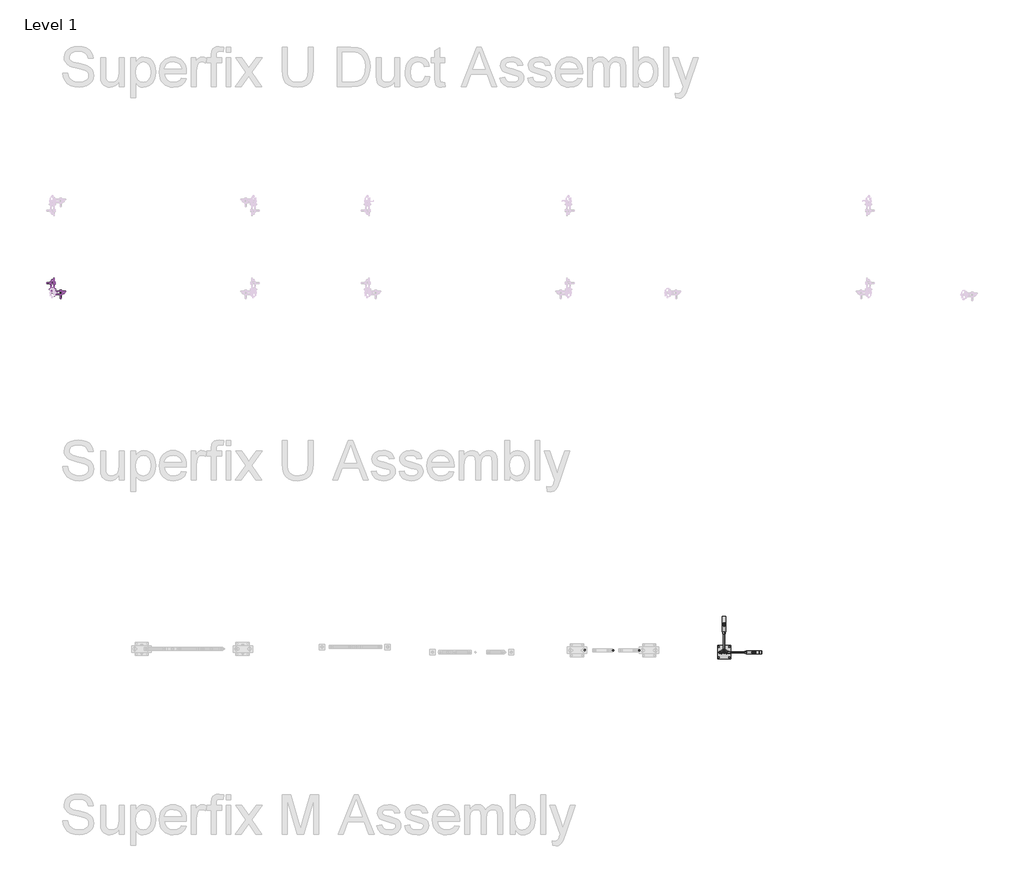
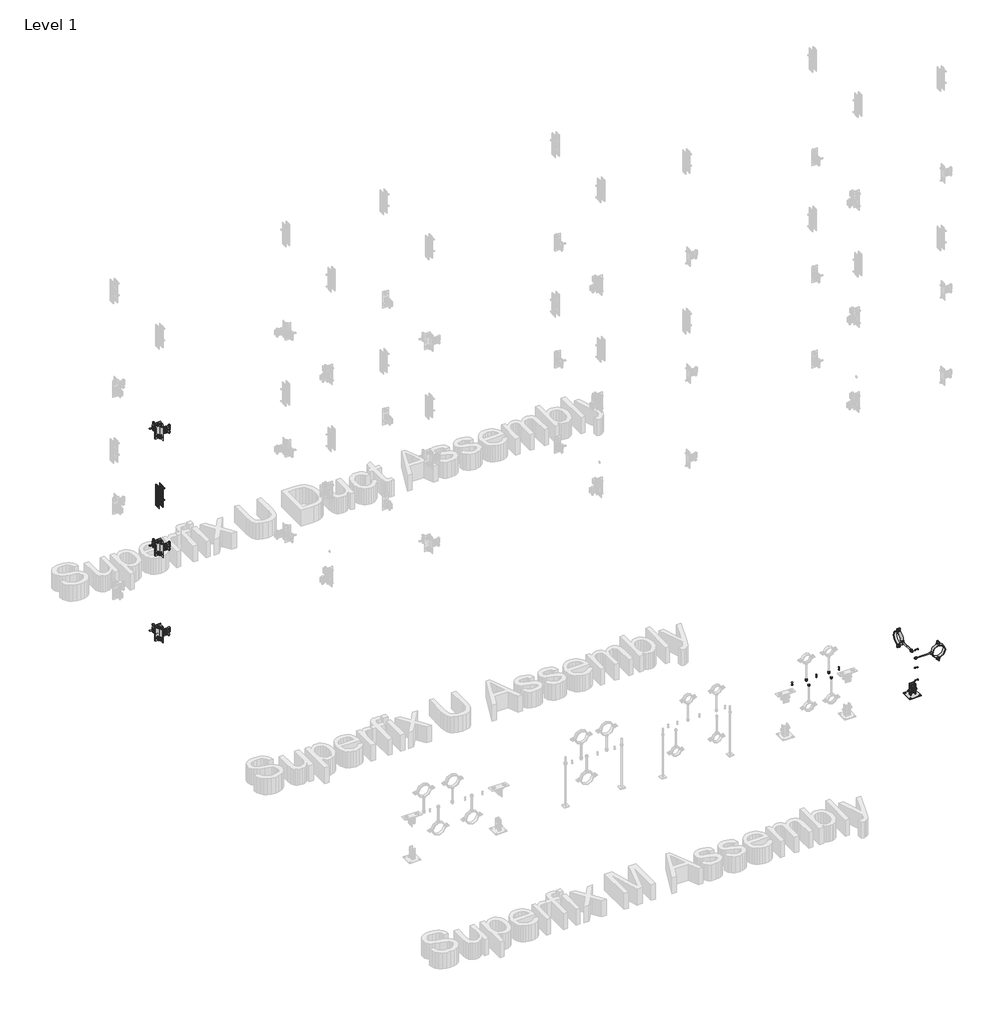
# One storey, part 8 of 32: 141 valves.
"""IFC4 building model written with IfcOpenShell, lengths in millimetres."""

from ifc_helpers import new_model, si_unit, origin, place, context, project, spatial, transform, mapped, element, save
from components import valve_03d34d46, valve_3ecbcef6, valve_9c502f16, valve_76fbe92c, valve_fad8a5b8, valve_cdfc1e77, hexagon_nut_galvanized_extra_m10_fcef541f, valve_42e91783, hexagon_nut_galvanized_extra_m8_53389388, superfix_hexagon_screw_galvanized_8354a985, superfix_hexagon_screw_galvanized_f0d66714, superfix_hexagon_screw_galvanized_68d17cb7, superfix_hexagon_screw_galvanized_e39b877e, superfix_hexagon_screw_galvanized_3ef5af78, superfix_hexagon_screw_galvanized_3d7df342, superfix_hexagon_screw_galvanized_39733bb5, superfix_strap_981cfdac, superfix_u_bracket_h_0b8578fe, superfix_u_bracket_h_f60a1122, valve_466bc10e

model = new_model("IFC4")

# Units and contexts
model_context = context("Model", 3, world=origin())
ifc_project = project(units=[si_unit("LENGTHUNIT", "METRE", prefix="MILLI")], contexts=[model_context])

# Site, building, storey
site = spatial("IfcSite", under=ifc_project)
building = spatial("IfcBuilding", under=site)
storey = spatial("IfcBuildingStorey", under=building, Name="Level 1", Elevation=0.0)

# Valves
placement = place(None, origin())
valve_shape = valve_03d34d46(model_context)
element("IfcValve", 1, ObjectType="Superfix DG2 Clamp : Superfix DG2 Clamp", at=placement, inside=storey, context=model_context, shape_type="MappedRepresentation", body=[
    mapped(valve_shape, transform((-17522.1413441, 26049.6868075, 404.0605243), x_axis=(-1.0, 0.0, 0.0), y_axis=(0.0, 0.0, 1.0), z_axis=(0.0, 1.0, 0.0))),
])
valve_2_shape = valve_3ecbcef6(model_context)
element("IfcValve", 2, ObjectType="Superfix Threaded Rod (used for clamps) : Threaded Rod - 1000 mm (used for clamps)", at=placement, inside=storey, context=model_context, shape_type="MappedRepresentation", body=[
    mapped(valve_2_shape, transform((-17522.1413441, 26049.6868075, 404.0605243), x_axis=(0.0, 1.0, 0.0), y_axis=(0.0, 0.0, -1.0), z_axis=(-1.0, 0.0, 0.0))),
])
element("IfcValve", 3, ObjectType="Superfix DG2 Clamp : Superfix DG2 Clamp", at=placement, inside=storey, context=model_context, shape_type="MappedRepresentation", body=[
    mapped(valve_shape, transform((-17493.6413441, 26036.146014, 333.4869215), x_axis=(0.0, 1.0, 0.0), y_axis=(0.0, 0.0, 1.0), z_axis=(1.0, 0.0, 0.0))),
])
valve_3_shape = valve_9c502f16(model_context)
element("IfcValve", 4, ObjectType="Superfix Threaded Rod (used for clamps) : Threaded Rod - 1000 mm (used for clamps)", at=placement, inside=storey, context=model_context, shape_type="MappedRepresentation", body=[
    mapped(valve_3_shape, transform((-17493.6413441, 26036.146014, 333.4869215), x_axis=(1.0, 0.0, 0.0), y_axis=(0.0, 0.0, -1.0), z_axis=(0.0, 1.0, 0.0))),
])
valve_4_shape = valve_76fbe92c(model_context)
element("IfcValve", 5, ObjectType="Superfix Flat Washer : Superfix Flat Washer M4x10x1", at=placement, inside=storey, context=model_context, shape_type="MappedRepresentation", body=[
    mapped(valve_4_shape, transform((-18167.7349662, 26051.6868075, 454.991136), x_axis=(-1.0, 0.0, 0.0), y_axis=(0.0, 1.0, 0.0), z_axis=(0.0, 0.0, -1.0))),
])
element("IfcValve", 6, ObjectType="Superfix Flat Washer : Superfix Flat Washer M4x10x1", at=placement, inside=storey, context=model_context, shape_type="MappedRepresentation", body=[
    mapped(valve_4_shape, transform((-18368.1455908, 26051.6868075, 454.991136), x_axis=(-1.0, 0.0, 0.0), y_axis=(0.0, 1.0, 0.0), z_axis=(0.0, 0.0, -1.0))),
])
element("IfcValve", 7, ObjectType="Superfix Flat Washer : Superfix Flat Washer M4x10x1", at=placement, inside=storey, context=model_context, shape_type="MappedRepresentation", body=[
    mapped(valve_4_shape, transform((-18582.7620334, 26053.7544774, 454.991136), x_axis=(-1.0, 0.0, 0.0), y_axis=(0.0, 1.0, 0.0), z_axis=(0.0, 0.0, -1.0))),
])
element("IfcValve", 8, ObjectType="Superfix Flat Washer : Superfix Flat Washer M4x10x1", at=placement, inside=storey, context=model_context, shape_type="MappedRepresentation", body=[
    mapped(valve_4_shape, transform((-17495.6502081, 26033.146014, 244.8469215), x_axis=(0.0, 0.0, -1.0), y_axis=(0.0, -1.0, 0.0), z_axis=(-1.0, 0.0, 0.0))),
])
element("IfcValve", 9, ObjectType="Superfix Flat Washer : Superfix Flat Washer M4x10x1", at=placement, inside=storey, context=model_context, shape_type="MappedRepresentation", body=[
    mapped(valve_4_shape, transform((-17495.6502081, 26036.146014, 412.0145519), x_axis=(0.0, 0.0, -1.0), y_axis=(0.0, -1.0, 0.0), z_axis=(-1.0, 0.0, 0.0))),
])
element("IfcValve", 10, ObjectType="Superfix Flat Washer : Superfix Flat Washer M4x10x1", at=placement, inside=storey, context=model_context, shape_type="MappedRepresentation", body=[
    mapped(valve_4_shape, transform((-17495.6502081, 26036.146014, 124.9487916), x_axis=(0.0, 0.0, -1.0), y_axis=(0.0, -1.0, 0.0), z_axis=(-1.0, 0.0, 0.0))),
])
valve_5_shape = valve_fad8a5b8(model_context)
element("IfcValve", 11, ObjectType="Superfix Flat Washer : Superfix Flat Washer M8x15x1.5", at=placement, inside=storey, context=model_context, shape_type="MappedRepresentation", body=[
    mapped(valve_5_shape, transform((-22576.450626, 28765.46055, 700.0), x_axis=(1.0, 0.0, 0.0), y_axis=(0.0, 0.0, 1.0), z_axis=(0.0, -1.0, 0.0))),
])
element("IfcValve", 12, ObjectType="Superfix Flat Washer : Superfix Flat Washer M8x15x1.5", at=placement, inside=storey, context=model_context, shape_type="MappedRepresentation", body=[
    mapped(valve_5_shape, transform((-22625.850626, 28777.96055, 642.0), x_axis=(0.0, 0.0, 1.0), y_axis=(0.0, 1.0, 0.0), z_axis=(-1.0, 0.0, 0.0))),
])
element("IfcValve", 13, ObjectType="Superfix Flat Washer : Superfix Flat Washer M8x15x1.5", at=placement, inside=storey, context=model_context, shape_type="MappedRepresentation", body=[
    mapped(valve_5_shape, transform((-22625.850626, 28777.96055, 758.0), x_axis=(0.0, 0.0, 1.0), y_axis=(0.0, 1.0, 0.0), z_axis=(-1.0, 0.0, 0.0))),
])
element("IfcValve", 14, ObjectType="Superfix Flat Washer : Superfix Flat Washer M8x15x1.5", at=placement, inside=storey, context=model_context, shape_type="MappedRepresentation", body=[
    mapped(valve_5_shape, transform((-22556.450626, 28777.96055, 671.5), x_axis=(1.0, 0.0, 0.0), y_axis=(0.0, -1.0, 0.0), z_axis=(0.0, 0.0, -1.0))),
])
element("IfcValve", 15, ObjectType="Superfix Flat Washer : Superfix Flat Washer M8x15x1.5", at=placement, inside=storey, context=model_context, shape_type="MappedRepresentation", body=[
    mapped(valve_5_shape, transform((-22573.450626, 28765.46055, 2600.0), x_axis=(1.0, 0.0, 0.0), y_axis=(0.0, 0.0, 1.0), z_axis=(0.0, -1.0, 0.0))),
])
element("IfcValve", 16, ObjectType="Superfix Flat Washer : Superfix Flat Washer M8x15x1.5", at=placement, inside=storey, context=model_context, shape_type="MappedRepresentation", body=[
    mapped(valve_5_shape, transform((-22622.850626, 28777.96055, 2542.0), x_axis=(0.0, 0.0, 1.0), y_axis=(0.0, 1.0, 0.0), z_axis=(-1.0, 0.0, 0.0))),
])
element("IfcValve", 17, ObjectType="Superfix Flat Washer : Superfix Flat Washer M8x15x1.5", at=placement, inside=storey, context=model_context, shape_type="MappedRepresentation", body=[
    mapped(valve_5_shape, transform((-22622.850626, 28777.96055, 2658.0), x_axis=(0.0, 0.0, 1.0), y_axis=(0.0, 1.0, 0.0), z_axis=(-1.0, 0.0, 0.0))),
])
element("IfcValve", 18, ObjectType="Superfix Flat Washer : Superfix Flat Washer M8x15x1.5", at=placement, inside=storey, context=model_context, shape_type="MappedRepresentation", body=[
    mapped(valve_5_shape, transform((-22553.450626, 28777.96055, 2571.5), x_axis=(1.0, 0.0, 0.0), y_axis=(0.0, -1.0, 0.0), z_axis=(0.0, 0.0, -1.0))),
])
element("IfcValve", 19, ObjectType="Superfix Flat Washer : Superfix Flat Washer M8x15x1.5", at=placement, inside=storey, context=model_context, shape_type="MappedRepresentation", body=[
    mapped(valve_5_shape, transform((-22573.450626, 28765.46055, 1500.0), x_axis=(1.0, 0.0, 0.0), y_axis=(0.0, 0.0, 1.0), z_axis=(0.0, -1.0, 0.0))),
])
element("IfcValve", 20, ObjectType="Superfix Flat Washer : Superfix Flat Washer M8x15x1.5", at=placement, inside=storey, context=model_context, shape_type="MappedRepresentation", body=[
    mapped(valve_5_shape, transform((-22622.850626, 28777.96055, 1442.0), x_axis=(0.0, 0.0, 1.0), y_axis=(0.0, 1.0, 0.0), z_axis=(-1.0, 0.0, 0.0))),
])
element("IfcValve", 21, ObjectType="Superfix Flat Washer : Superfix Flat Washer M8x15x1.5", at=placement, inside=storey, context=model_context, shape_type="MappedRepresentation", body=[
    mapped(valve_5_shape, transform((-22622.850626, 28777.96055, 1558.0), x_axis=(0.0, 0.0, 1.0), y_axis=(0.0, 1.0, 0.0), z_axis=(-1.0, 0.0, 0.0))),
])
element("IfcValve", 22, ObjectType="Superfix Flat Washer : Superfix Flat Washer M8x15x1.5", at=placement, inside=storey, context=model_context, shape_type="MappedRepresentation", body=[
    mapped(valve_5_shape, transform((-22553.450626, 28777.96055, 1471.5), x_axis=(1.0, 0.0, 0.0), y_axis=(0.0, -1.0, 0.0), z_axis=(0.0, 0.0, -1.0))),
])
element("IfcValve", 23, ObjectType="Superfix Flat Washer : Superfix Flat Washer M8x15x1.5", at=placement, inside=storey, context=model_context, shape_type="MappedRepresentation", body=[
    mapped(valve_5_shape, transform((-22652.950626, 28850.96055, 2600.0), x_axis=(0.0, -1.0, 0.0), y_axis=(0.0, 0.0, 1.0), z_axis=(-1.0, 0.0, 0.0))),
])
element("IfcValve", 24, ObjectType="Superfix Flat Washer : Superfix Flat Washer M8x15x1.5", at=placement, inside=storey, context=model_context, shape_type="MappedRepresentation", body=[
    mapped(valve_5_shape, transform((-22640.450626, 28799.96055, 2658.0), x_axis=(0.0, 0.0, 1.0), y_axis=(1.0, 0.0, 0.0), z_axis=(0.0, 1.0, 0.0))),
])
element("IfcValve", 25, ObjectType="Superfix Flat Washer : Superfix Flat Washer M8x15x1.5", at=placement, inside=storey, context=model_context, shape_type="MappedRepresentation", body=[
    mapped(valve_5_shape, transform((-22640.450626, 28799.96055, 2542.0), x_axis=(0.0, 0.0, 1.0), y_axis=(1.0, 0.0, 0.0), z_axis=(0.0, 1.0, 0.0))),
])
element("IfcValve", 26, ObjectType="Superfix Flat Washer : Superfix Flat Washer M8x15x1.5", at=placement, inside=storey, context=model_context, shape_type="MappedRepresentation", body=[
    mapped(valve_5_shape, transform((-22640.450626, 28870.96055, 2571.5), x_axis=(0.0, -1.0, 0.0), y_axis=(-1.0, 0.0, 0.0), z_axis=(0.0, 0.0, -1.0))),
])
element("IfcValve", 27, ObjectType="Superfix Flat Washer : Superfix Flat Washer M8x15x1.5", at=placement, inside=storey, context=model_context, shape_type="MappedRepresentation", body=[
    mapped(valve_5_shape, transform((-22652.950626, 28850.96055, 1500.0), x_axis=(0.0, -1.0, 0.0), y_axis=(0.0, 0.0, 1.0), z_axis=(-1.0, 0.0, 0.0))),
])
element("IfcValve", 28, ObjectType="Superfix Flat Washer : Superfix Flat Washer M8x15x1.5", at=placement, inside=storey, context=model_context, shape_type="MappedRepresentation", body=[
    mapped(valve_5_shape, transform((-22640.450626, 28799.96055, 1558.0), x_axis=(0.0, 0.0, 1.0), y_axis=(1.0, 0.0, 0.0), z_axis=(0.0, 1.0, 0.0))),
])
element("IfcValve", 29, ObjectType="Superfix Flat Washer : Superfix Flat Washer M8x15x1.5", at=placement, inside=storey, context=model_context, shape_type="MappedRepresentation", body=[
    mapped(valve_5_shape, transform((-22640.450626, 28799.96055, 1442.0), x_axis=(0.0, 0.0, 1.0), y_axis=(1.0, 0.0, 0.0), z_axis=(0.0, 1.0, 0.0))),
])
element("IfcValve", 30, ObjectType="Superfix Flat Washer : Superfix Flat Washer M8x15x1.5", at=placement, inside=storey, context=model_context, shape_type="MappedRepresentation", body=[
    mapped(valve_5_shape, transform((-22640.450626, 28870.96055, 1471.5), x_axis=(0.0, -1.0, 0.0), y_axis=(-1.0, 0.0, 0.0), z_axis=(0.0, 0.0, -1.0))),
])
element("IfcValve", 31, ObjectType="Superfix Flat Washer : Superfix Flat Washer M8x15x1.5", at=placement, inside=storey, context=model_context, shape_type="MappedRepresentation", body=[
    mapped(valve_5_shape, transform((-22652.950626, 28851.96055, 700.0), x_axis=(0.0, -1.0, 0.0), y_axis=(0.0, 0.0, 1.0), z_axis=(-1.0, 0.0, 0.0))),
])
element("IfcValve", 32, ObjectType="Superfix Flat Washer : Superfix Flat Washer M8x15x1.5", at=placement, inside=storey, context=model_context, shape_type="MappedRepresentation", body=[
    mapped(valve_5_shape, transform((-22640.450626, 28800.96055, 758.0), x_axis=(0.0, 0.0, 1.0), y_axis=(1.0, 0.0, 0.0), z_axis=(0.0, 1.0, 0.0))),
])
element("IfcValve", 33, ObjectType="Superfix Flat Washer : Superfix Flat Washer M8x15x1.5", at=placement, inside=storey, context=model_context, shape_type="MappedRepresentation", body=[
    mapped(valve_5_shape, transform((-22640.450626, 28800.96055, 642.0), x_axis=(0.0, 0.0, 1.0), y_axis=(1.0, 0.0, 0.0), z_axis=(0.0, 1.0, 0.0))),
])
element("IfcValve", 34, ObjectType="Superfix Flat Washer : Superfix Flat Washer M8x15x1.5", at=placement, inside=storey, context=model_context, shape_type="MappedRepresentation", body=[
    mapped(valve_5_shape, transform((-22640.450626, 28871.96055, 671.5), x_axis=(0.0, -1.0, 0.0), y_axis=(-1.0, 0.0, 0.0), z_axis=(0.0, 0.0, -1.0))),
])
element("IfcValve", 35, ObjectType="Superfix Flat Washer : Superfix Flat Washer M8x15x1.5", at=placement, inside=storey, context=model_context, shape_type="MappedRepresentation", body=[
    mapped(valve_5_shape, transform((-18456.8086693, 26051.6868075, 460.0), x_axis=(0.0, -1.0, 0.0), y_axis=(1.0, 0.0, 0.0), z_axis=(0.0, 0.0, 1.0))),
])
element("IfcValve", 36, ObjectType="Superfix Flat Washer : Superfix Flat Washer M8x15x1.5", at=placement, inside=storey, context=model_context, shape_type="MappedRepresentation", body=[
    mapped(valve_5_shape, transform((-18456.8086693, 26051.6868075, 455.4), x_axis=(0.0, -1.0, 0.0), y_axis=(1.0, 0.0, 0.0), z_axis=(0.0, 0.0, 1.0))),
])
element("IfcValve", 37, ObjectType="Superfix Flat Washer : Superfix Flat Washer M8x15x1.5", at=placement, inside=storey, context=model_context, shape_type="MappedRepresentation", body=[
    mapped(valve_5_shape, transform((-18256.8086693, 26051.6868075, 460.0), x_axis=(0.0, -1.0, 0.0), y_axis=(1.0, 0.0, 0.0), z_axis=(0.0, 0.0, 1.0))),
])
element("IfcValve", 38, ObjectType="Superfix Flat Washer : Superfix Flat Washer M8x15x1.5", at=placement, inside=storey, context=model_context, shape_type="MappedRepresentation", body=[
    mapped(valve_5_shape, transform((-18256.8086693, 26051.6868075, 455.4), x_axis=(0.0, -1.0, 0.0), y_axis=(1.0, 0.0, 0.0), z_axis=(0.0, 0.0, 1.0))),
])
element("IfcValve", 39, ObjectType="Superfix Flat Washer : Superfix Flat Washer M8x15x1.5", at=placement, inside=storey, context=model_context, shape_type="MappedRepresentation", body=[
    mapped(valve_5_shape, transform((-18436.8991741, 26051.6868075, 399.0), x_axis=(0.0, -1.0, 0.0), y_axis=(-1.0, 0.0, 0.0), z_axis=(0.0, 0.0, -1.0))),
])
element("IfcValve", 40, ObjectType="Superfix Flat Washer : Superfix Flat Washer M8x15x1.5", at=placement, inside=storey, context=model_context, shape_type="MappedRepresentation", body=[
    mapped(valve_5_shape, transform((-18436.8991741, 26051.6868075, 403.6), x_axis=(0.0, -1.0, 0.0), y_axis=(-1.0, 0.0, 0.0), z_axis=(0.0, 0.0, -1.0))),
])
element("IfcValve", 41, ObjectType="Superfix Flat Washer : Superfix Flat Washer M8x15x1.5", at=placement, inside=storey, context=model_context, shape_type="MappedRepresentation", body=[
    mapped(valve_5_shape, transform((-18234.6207056, 26051.6868075, 399.0), x_axis=(0.0, -1.0, 0.0), y_axis=(-1.0, 0.0, 0.0), z_axis=(0.0, 0.0, -1.0))),
])
element("IfcValve", 42, ObjectType="Superfix Flat Washer : Superfix Flat Washer M8x15x1.5", at=placement, inside=storey, context=model_context, shape_type="MappedRepresentation", body=[
    mapped(valve_5_shape, transform((-18234.6207056, 26051.6868075, 403.6), x_axis=(0.0, -1.0, 0.0), y_axis=(-1.0, 0.0, 0.0), z_axis=(0.0, 0.0, -1.0))),
])
element("IfcValve", 43, ObjectType="Superfix Flat Washer : Superfix Flat Washer M8x15x1.5", at=placement, inside=storey, context=model_context, shape_type="MappedRepresentation", body=[
    mapped(valve_5_shape, transform((-17490.6413441, 26036.146014, 333.4869215), x_axis=(0.0, 1.0, 0.0), y_axis=(0.0, 0.0, 1.0), z_axis=(1.0, 0.0, 0.0))),
])
element("IfcValve", 44, ObjectType="Superfix Flat Washer : Superfix Flat Washer M8x15x1.5", at=placement, inside=storey, context=model_context, shape_type="MappedRepresentation", body=[
    mapped(valve_5_shape, transform((-17495.2413441, 26036.146014, 333.4869215), x_axis=(0.0, 1.0, 0.0), y_axis=(0.0, 0.0, 1.0), z_axis=(1.0, 0.0, 0.0))),
])
element("IfcValve", 45, ObjectType="Superfix Flat Washer : Superfix Flat Washer M8x15x1.5", at=placement, inside=storey, context=model_context, shape_type="MappedRepresentation", body=[
    mapped(valve_5_shape, transform((-22624.450626, 28777.96055, 1945.0), x_axis=(0.0, 1.0, 0.0), y_axis=(0.0, 0.0, 1.0), z_axis=(1.0, 0.0, 0.0))),
])
element("IfcValve", 46, ObjectType="Superfix Flat Washer : Superfix Flat Washer M8x15x1.5", at=placement, inside=storey, context=model_context, shape_type="MappedRepresentation", body=[
    mapped(valve_5_shape, transform((-22624.450626, 28777.96055, 2055.0), x_axis=(0.0, 1.0, 0.0), y_axis=(0.0, 0.0, 1.0), z_axis=(1.0, 0.0, 0.0))),
])
element("IfcValve", 47, ObjectType="Superfix Flat Washer : Superfix Flat Washer M8x15x1.5", at=placement, inside=storey, context=model_context, shape_type="MappedRepresentation", body=[
    mapped(valve_5_shape, transform((-22640.450626, 28749.46055, 2040.0), x_axis=(1.0, 0.0, 0.0), y_axis=(0.0, 0.0, 1.0), z_axis=(0.0, -1.0, 0.0))),
])
element("IfcValve", 48, ObjectType="Superfix Flat Washer : Superfix Flat Washer M8x15x1.5", at=placement, inside=storey, context=model_context, shape_type="MappedRepresentation", body=[
    mapped(valve_5_shape, transform((-22640.450626, 28749.46055, 1960.0), x_axis=(1.0, 0.0, 0.0), y_axis=(0.0, 0.0, 1.0), z_axis=(0.0, -1.0, 0.0))),
])
valve_6_shape = valve_cdfc1e77(model_context)
element("IfcValve", 49, ObjectType="Superfix Flat Washer : Superfix Flat Washer M10x20x1.5", at=placement, inside=storey, context=model_context, shape_type="MappedRepresentation", body=[
    mapped(valve_6_shape, transform((-17522.1413441, 26052.6868075, 404.0605243), x_axis=(-1.0, 0.0, 0.0), y_axis=(0.0, 0.0, 1.0), z_axis=(0.0, 1.0, 0.0))),
])
element("IfcValve", 50, ObjectType="Superfix Flat Washer : Superfix Flat Washer M10x20x1.5", at=placement, inside=storey, context=model_context, shape_type="MappedRepresentation", body=[
    mapped(valve_6_shape, transform((-17522.1413441, 26047.6868075, 404.0605243), x_axis=(-1.0, 0.0, 0.0), y_axis=(0.0, 0.0, 1.0), z_axis=(0.0, 1.0, 0.0))),
])
hexagon_nut_galvanized_extra_m10_shape = hexagon_nut_galvanized_extra_m10_fcef541f(model_context)
element("IfcValve", 51, ObjectType="Superfix Hexagon Nut Galvanized : Hexagon Nut Galvanized M10", at=placement, inside=storey, context=model_context, shape_type="MappedRepresentation", body=[
    mapped(hexagon_nut_galvanized_extra_m10_shape, transform((-17522.1413441, 26052.6868075, 404.0605243), x_axis=(-1.0, 0.0, 0.0), y_axis=(0.0, 0.0, 1.0), z_axis=(0.0, 1.0, 0.0))),
])
element("IfcValve", 52, ObjectType="Superfix Hexagon Nut Galvanized : Hexagon Nut Galvanized M10", at=placement, inside=storey, context=model_context, shape_type="MappedRepresentation", body=[
    mapped(hexagon_nut_galvanized_extra_m10_shape, transform((-17522.1413441, 26041.6868075, 404.0605243), x_axis=(-1.0, 0.0, 0.0), y_axis=(0.0, 0.0, 1.0), z_axis=(0.0, 1.0, 0.0))),
])
valve_7_shape = valve_42e91783(model_context)
element("IfcValve", 53, ObjectType="Superfix Hexagon Nut Galvanized : Hexagon Nut Galvanized M4", at=placement, inside=storey, context=model_context, shape_type="MappedRepresentation", body=[
    mapped(valve_7_shape, transform((-18167.7349662, 26051.6868075, 453.991136), x_axis=(-1.0, 0.0, 0.0), y_axis=(0.0, 1.0, 0.0), z_axis=(0.0, 0.0, -1.0))),
])
element("IfcValve", 54, ObjectType="Superfix Hexagon Nut Galvanized : Hexagon Nut Galvanized M4", at=placement, inside=storey, context=model_context, shape_type="MappedRepresentation", body=[
    mapped(valve_7_shape, transform((-18368.1455908, 26051.6868075, 453.991136), x_axis=(-1.0, 0.0, 0.0), y_axis=(0.0, 1.0, 0.0), z_axis=(0.0, 0.0, -1.0))),
])
element("IfcValve", 55, ObjectType="Superfix Hexagon Nut Galvanized : Hexagon Nut Galvanized M4", at=placement, inside=storey, context=model_context, shape_type="MappedRepresentation", body=[
    mapped(valve_7_shape, transform((-18582.7620334, 26053.7544774, 453.991136), x_axis=(-1.0, 0.0, 0.0), y_axis=(0.0, 1.0, 0.0), z_axis=(0.0, 0.0, -1.0))),
])
element("IfcValve", 56, ObjectType="Superfix Hexagon Nut Galvanized : Hexagon Nut Galvanized M4", at=placement, inside=storey, context=model_context, shape_type="MappedRepresentation", body=[
    mapped(valve_7_shape, transform((-17496.6502081, 26033.146014, 244.8469215), x_axis=(0.0, 0.0, -1.0), y_axis=(0.0, -1.0, 0.0), z_axis=(-1.0, 0.0, 0.0))),
])
element("IfcValve", 57, ObjectType="Superfix Hexagon Nut Galvanized : Hexagon Nut Galvanized M4", at=placement, inside=storey, context=model_context, shape_type="MappedRepresentation", body=[
    mapped(valve_7_shape, transform((-17496.6502081, 26036.146014, 412.0145519), x_axis=(0.0, 0.0, -1.0), y_axis=(0.0, -1.0, 0.0), z_axis=(-1.0, 0.0, 0.0))),
])
element("IfcValve", 58, ObjectType="Superfix Hexagon Nut Galvanized : Hexagon Nut Galvanized M4", at=placement, inside=storey, context=model_context, shape_type="MappedRepresentation", body=[
    mapped(valve_7_shape, transform((-17496.6502081, 26036.146014, 124.9487916), x_axis=(0.0, 0.0, -1.0), y_axis=(0.0, -1.0, 0.0), z_axis=(-1.0, 0.0, 0.0))),
])
hexagon_nut_galvanized_extra_m8_shape = hexagon_nut_galvanized_extra_m8_53389388(model_context)
element("IfcValve", 59, ObjectType="Superfix Hexagon Nut Galvanized : Hexagon Nut Galvanized M8", at=placement, inside=storey, context=model_context, shape_type="MappedRepresentation", body=[
    mapped(hexagon_nut_galvanized_extra_m8_shape, transform((-22652.950626, 28850.96055, 2600.0), x_axis=(0.0, -1.0, 0.0), y_axis=(0.0, 0.0, 1.0), z_axis=(-1.0, 0.0, 0.0))),
])
element("IfcValve", 60, ObjectType="Superfix Hexagon Nut Galvanized : Hexagon Nut Galvanized M8", at=placement, inside=storey, context=model_context, shape_type="MappedRepresentation", body=[
    mapped(hexagon_nut_galvanized_extra_m8_shape, transform((-22640.450626, 28870.96055, 2565.0), x_axis=(1.0, 0.0, 0.0), y_axis=(0.0, 1.0, 0.0), z_axis=(0.0, 0.0, 1.0))),
])
element("IfcValve", 61, ObjectType="Superfix Hexagon Nut Galvanized : Hexagon Nut Galvanized M8", at=placement, inside=storey, context=model_context, shape_type="MappedRepresentation", body=[
    mapped(hexagon_nut_galvanized_extra_m8_shape, transform((-22640.450626, 28793.46055, 2542.0), x_axis=(0.0, 0.0, 1.0), y_axis=(1.0, 0.0, 0.0), z_axis=(0.0, 1.0, 0.0))),
])
element("IfcValve", 62, ObjectType="Superfix Hexagon Nut Galvanized : Hexagon Nut Galvanized M8", at=placement, inside=storey, context=model_context, shape_type="MappedRepresentation", body=[
    mapped(hexagon_nut_galvanized_extra_m8_shape, transform((-22640.450626, 28793.46055, 2658.0), x_axis=(0.0, 0.0, 1.0), y_axis=(1.0, 0.0, 0.0), z_axis=(0.0, 1.0, 0.0))),
])
element("IfcValve", 63, ObjectType="Superfix Hexagon Nut Galvanized : Hexagon Nut Galvanized M8", at=placement, inside=storey, context=model_context, shape_type="MappedRepresentation", body=[
    mapped(hexagon_nut_galvanized_extra_m8_shape, transform((-22652.950626, 28850.96055, 1500.0), x_axis=(0.0, -1.0, 0.0), y_axis=(0.0, 0.0, 1.0), z_axis=(-1.0, 0.0, 0.0))),
])
element("IfcValve", 64, ObjectType="Superfix Hexagon Nut Galvanized : Hexagon Nut Galvanized M8", at=placement, inside=storey, context=model_context, shape_type="MappedRepresentation", body=[
    mapped(hexagon_nut_galvanized_extra_m8_shape, transform((-22640.450626, 28870.96055, 1465.0), x_axis=(1.0, 0.0, 0.0), y_axis=(0.0, 1.0, 0.0), z_axis=(0.0, 0.0, 1.0))),
])
element("IfcValve", 65, ObjectType="Superfix Hexagon Nut Galvanized : Hexagon Nut Galvanized M8", at=placement, inside=storey, context=model_context, shape_type="MappedRepresentation", body=[
    mapped(hexagon_nut_galvanized_extra_m8_shape, transform((-22640.450626, 28793.46055, 1442.0), x_axis=(0.0, 0.0, 1.0), y_axis=(1.0, 0.0, 0.0), z_axis=(0.0, 1.0, 0.0))),
])
element("IfcValve", 66, ObjectType="Superfix Hexagon Nut Galvanized : Hexagon Nut Galvanized M8", at=placement, inside=storey, context=model_context, shape_type="MappedRepresentation", body=[
    mapped(hexagon_nut_galvanized_extra_m8_shape, transform((-22640.450626, 28793.46055, 1558.0), x_axis=(0.0, 0.0, 1.0), y_axis=(1.0, 0.0, 0.0), z_axis=(0.0, 1.0, 0.0))),
])
element("IfcValve", 67, ObjectType="Superfix Hexagon Nut Galvanized : Hexagon Nut Galvanized M8", at=placement, inside=storey, context=model_context, shape_type="MappedRepresentation", body=[
    mapped(hexagon_nut_galvanized_extra_m8_shape, transform((-22652.950626, 28851.96055, 700.0), x_axis=(0.0, -1.0, 0.0), y_axis=(0.0, 0.0, 1.0), z_axis=(-1.0, 0.0, 0.0))),
])
element("IfcValve", 68, ObjectType="Superfix Hexagon Nut Galvanized : Hexagon Nut Galvanized M8", at=placement, inside=storey, context=model_context, shape_type="MappedRepresentation", body=[
    mapped(hexagon_nut_galvanized_extra_m8_shape, transform((-22640.450626, 28871.96055, 665.0), x_axis=(1.0, 0.0, 0.0), y_axis=(0.0, 1.0, 0.0), z_axis=(0.0, 0.0, 1.0))),
])
element("IfcValve", 69, ObjectType="Superfix Hexagon Nut Galvanized : Hexagon Nut Galvanized M8", at=placement, inside=storey, context=model_context, shape_type="MappedRepresentation", body=[
    mapped(hexagon_nut_galvanized_extra_m8_shape, transform((-22640.450626, 28794.46055, 642.0), x_axis=(0.0, 0.0, 1.0), y_axis=(1.0, 0.0, 0.0), z_axis=(0.0, 1.0, 0.0))),
])
element("IfcValve", 70, ObjectType="Superfix Hexagon Nut Galvanized : Hexagon Nut Galvanized M8", at=placement, inside=storey, context=model_context, shape_type="MappedRepresentation", body=[
    mapped(hexagon_nut_galvanized_extra_m8_shape, transform((-22640.450626, 28794.46055, 758.0), x_axis=(0.0, 0.0, 1.0), y_axis=(1.0, 0.0, 0.0), z_axis=(0.0, 1.0, 0.0))),
])
element("IfcValve", 71, ObjectType="Superfix Hexagon Nut Galvanized : Hexagon Nut Galvanized M8", at=placement, inside=storey, context=model_context, shape_type="MappedRepresentation", body=[
    mapped(hexagon_nut_galvanized_extra_m8_shape, transform((-22576.450626, 28765.46055, 700.0), x_axis=(-1.0, 0.0, 0.0), y_axis=(0.0, 0.0, -1.0), z_axis=(0.0, -1.0, 0.0))),
])
element("IfcValve", 72, ObjectType="Superfix Hexagon Nut Galvanized : Hexagon Nut Galvanized M8", at=placement, inside=storey, context=model_context, shape_type="MappedRepresentation", body=[
    mapped(hexagon_nut_galvanized_extra_m8_shape, transform((-22556.450626, 28777.96055, 665.0), x_axis=(0.0, 1.0, 0.0), y_axis=(-1.0, 0.0, 0.0), z_axis=(0.0, 0.0, 1.0))),
])
element("IfcValve", 73, ObjectType="Superfix Hexagon Nut Galvanized : Hexagon Nut Galvanized M8", at=placement, inside=storey, context=model_context, shape_type="MappedRepresentation", body=[
    mapped(hexagon_nut_galvanized_extra_m8_shape, transform((-22633.950626, 28777.96055, 642.0), x_axis=(0.0, 0.0, 1.0), y_axis=(0.0, -1.0, 0.0), z_axis=(1.0, 0.0, 0.0))),
])
element("IfcValve", 74, ObjectType="Superfix Hexagon Nut Galvanized : Hexagon Nut Galvanized M8", at=placement, inside=storey, context=model_context, shape_type="MappedRepresentation", body=[
    mapped(hexagon_nut_galvanized_extra_m8_shape, transform((-22633.950626, 28777.96055, 758.0), x_axis=(0.0, 0.0, 1.0), y_axis=(0.0, -1.0, 0.0), z_axis=(1.0, 0.0, 0.0))),
])
element("IfcValve", 75, ObjectType="Superfix Hexagon Nut Galvanized : Hexagon Nut Galvanized M8", at=placement, inside=storey, context=model_context, shape_type="MappedRepresentation", body=[
    mapped(hexagon_nut_galvanized_extra_m8_shape, transform((-22573.450626, 28765.46055, 2600.0), x_axis=(-1.0, 0.0, 0.0), y_axis=(0.0, 0.0, -1.0), z_axis=(0.0, -1.0, 0.0))),
])
element("IfcValve", 76, ObjectType="Superfix Hexagon Nut Galvanized : Hexagon Nut Galvanized M8", at=placement, inside=storey, context=model_context, shape_type="MappedRepresentation", body=[
    mapped(hexagon_nut_galvanized_extra_m8_shape, transform((-22553.450626, 28777.96055, 2565.0), x_axis=(0.0, 1.0, 0.0), y_axis=(-1.0, 0.0, 0.0), z_axis=(0.0, 0.0, 1.0))),
])
element("IfcValve", 77, ObjectType="Superfix Hexagon Nut Galvanized : Hexagon Nut Galvanized M8", at=placement, inside=storey, context=model_context, shape_type="MappedRepresentation", body=[
    mapped(hexagon_nut_galvanized_extra_m8_shape, transform((-22630.950626, 28777.96055, 2542.0), x_axis=(0.0, 0.0, 1.0), y_axis=(0.0, -1.0, 0.0), z_axis=(1.0, 0.0, 0.0))),
])
element("IfcValve", 78, ObjectType="Superfix Hexagon Nut Galvanized : Hexagon Nut Galvanized M8", at=placement, inside=storey, context=model_context, shape_type="MappedRepresentation", body=[
    mapped(hexagon_nut_galvanized_extra_m8_shape, transform((-22630.950626, 28777.96055, 2658.0), x_axis=(0.0, 0.0, 1.0), y_axis=(0.0, -1.0, 0.0), z_axis=(1.0, 0.0, 0.0))),
])
element("IfcValve", 79, ObjectType="Superfix Hexagon Nut Galvanized : Hexagon Nut Galvanized M8", at=placement, inside=storey, context=model_context, shape_type="MappedRepresentation", body=[
    mapped(hexagon_nut_galvanized_extra_m8_shape, transform((-22573.450626, 28765.46055, 1500.0), x_axis=(-1.0, 0.0, 0.0), y_axis=(0.0, 0.0, -1.0), z_axis=(0.0, -1.0, 0.0))),
])
element("IfcValve", 80, ObjectType="Superfix Hexagon Nut Galvanized : Hexagon Nut Galvanized M8", at=placement, inside=storey, context=model_context, shape_type="MappedRepresentation", body=[
    mapped(hexagon_nut_galvanized_extra_m8_shape, transform((-22553.450626, 28777.96055, 1465.0), x_axis=(0.0, 1.0, 0.0), y_axis=(-1.0, 0.0, 0.0), z_axis=(0.0, 0.0, 1.0))),
])
element("IfcValve", 81, ObjectType="Superfix Hexagon Nut Galvanized : Hexagon Nut Galvanized M8", at=placement, inside=storey, context=model_context, shape_type="MappedRepresentation", body=[
    mapped(hexagon_nut_galvanized_extra_m8_shape, transform((-22630.950626, 28777.96055, 1442.0), x_axis=(0.0, 0.0, 1.0), y_axis=(0.0, -1.0, 0.0), z_axis=(1.0, 0.0, 0.0))),
])
element("IfcValve", 82, ObjectType="Superfix Hexagon Nut Galvanized : Hexagon Nut Galvanized M8", at=placement, inside=storey, context=model_context, shape_type="MappedRepresentation", body=[
    mapped(hexagon_nut_galvanized_extra_m8_shape, transform((-22630.950626, 28777.96055, 1558.0), x_axis=(0.0, 0.0, 1.0), y_axis=(0.0, -1.0, 0.0), z_axis=(1.0, 0.0, 0.0))),
])
element("IfcValve", 83, ObjectType="Superfix Hexagon Nut Galvanized : Hexagon Nut Galvanized M8", at=placement, inside=storey, context=model_context, shape_type="MappedRepresentation", body=[
    mapped(hexagon_nut_galvanized_extra_m8_shape, transform((-17522.1413441, 26037.1868075, 30.2929032), x_axis=(-0.8660254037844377, 0.0, 0.5000000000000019), y_axis=(0.500000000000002, 0.0, 0.8660254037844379), z_axis=(0.0, 1.0000000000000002, 0.0))),
])
element("IfcValve", 84, ObjectType="Superfix Hexagon Nut Galvanized : Hexagon Nut Galvanized M8", at=placement, inside=storey, context=model_context, shape_type="MappedRepresentation", body=[
    mapped(hexagon_nut_galvanized_extra_m8_shape, transform((-17550.6413441, 26036.146014, 47.7900138), x_axis=(0.0, 1.0, 0.0), y_axis=(0.0, 0.0, -1.0), z_axis=(-1.0, 0.0, 0.0))),
])
element("IfcValve", 85, ObjectType="Superfix Hexagon Nut Galvanized : Hexagon Nut Galvanized M8", at=placement, inside=storey, context=model_context, shape_type="MappedRepresentation", body=[
    mapped(hexagon_nut_galvanized_extra_m8_shape, transform((-18456.8086693, 26051.6868075, 460.0), x_axis=(0.0, -1.0, 0.0), y_axis=(1.0, 0.0, 0.0), z_axis=(0.0, 0.0, 1.0))),
])
element("IfcValve", 86, ObjectType="Superfix Hexagon Nut Galvanized : Hexagon Nut Galvanized M8", at=placement, inside=storey, context=model_context, shape_type="MappedRepresentation", body=[
    mapped(hexagon_nut_galvanized_extra_m8_shape, transform((-18456.8086693, 26051.6868075, 450.5), x_axis=(0.0, -1.0, 0.0), y_axis=(1.0, 0.0, 0.0), z_axis=(0.0, 0.0, 1.0))),
])
element("IfcValve", 87, ObjectType="Superfix Hexagon Nut Galvanized : Hexagon Nut Galvanized M8", at=placement, inside=storey, context=model_context, shape_type="MappedRepresentation", body=[
    mapped(hexagon_nut_galvanized_extra_m8_shape, transform((-18256.8086693, 26051.6868075, 460.0), x_axis=(0.0, -1.0, 0.0), y_axis=(1.0, 0.0, 0.0), z_axis=(0.0, 0.0, 1.0))),
])
element("IfcValve", 88, ObjectType="Superfix Hexagon Nut Galvanized : Hexagon Nut Galvanized M8", at=placement, inside=storey, context=model_context, shape_type="MappedRepresentation", body=[
    mapped(hexagon_nut_galvanized_extra_m8_shape, transform((-18256.8086693, 26051.6868075, 450.5), x_axis=(0.0, -1.0, 0.0), y_axis=(1.0, 0.0, 0.0), z_axis=(0.0, 0.0, 1.0))),
])
element("IfcValve", 89, ObjectType="Superfix Hexagon Nut Galvanized : Hexagon Nut Galvanized M8", at=placement, inside=storey, context=model_context, shape_type="MappedRepresentation", body=[
    mapped(hexagon_nut_galvanized_extra_m8_shape, transform((-18436.8991741, 26051.6868075, 399.0), x_axis=(0.0, -1.0, 0.0), y_axis=(-1.0, 0.0, 0.0), z_axis=(0.0, 0.0, -1.0))),
])
element("IfcValve", 90, ObjectType="Superfix Hexagon Nut Galvanized : Hexagon Nut Galvanized M8", at=placement, inside=storey, context=model_context, shape_type="MappedRepresentation", body=[
    mapped(hexagon_nut_galvanized_extra_m8_shape, transform((-18436.8991741, 26051.6868075, 408.5), x_axis=(0.0, -1.0, 0.0), y_axis=(-1.0, 0.0, 0.0), z_axis=(0.0, 0.0, -1.0))),
])
element("IfcValve", 91, ObjectType="Superfix Hexagon Nut Galvanized : Hexagon Nut Galvanized M8", at=placement, inside=storey, context=model_context, shape_type="MappedRepresentation", body=[
    mapped(hexagon_nut_galvanized_extra_m8_shape, transform((-18234.6207056, 26051.6868075, 399.0), x_axis=(0.0, -1.0, 0.0), y_axis=(-1.0, 0.0, 0.0), z_axis=(0.0, 0.0, -1.0))),
])
element("IfcValve", 92, ObjectType="Superfix Hexagon Nut Galvanized : Hexagon Nut Galvanized M8", at=placement, inside=storey, context=model_context, shape_type="MappedRepresentation", body=[
    mapped(hexagon_nut_galvanized_extra_m8_shape, transform((-18234.6207056, 26051.6868075, 408.5), x_axis=(0.0, -1.0, 0.0), y_axis=(-1.0, 0.0, 0.0), z_axis=(0.0, 0.0, -1.0))),
])
element("IfcValve", 93, ObjectType="Superfix Hexagon Nut Galvanized : Hexagon Nut Galvanized M8", at=placement, inside=storey, context=model_context, shape_type="MappedRepresentation", body=[
    mapped(hexagon_nut_galvanized_extra_m8_shape, transform((-17490.6413441, 26036.146014, 333.4869215), x_axis=(0.0, 1.0, 0.0), y_axis=(0.0, 0.0, 1.0), z_axis=(1.0, 0.0, 0.0))),
])
element("IfcValve", 94, ObjectType="Superfix Hexagon Nut Galvanized : Hexagon Nut Galvanized M8", at=placement, inside=storey, context=model_context, shape_type="MappedRepresentation", body=[
    mapped(hexagon_nut_galvanized_extra_m8_shape, transform((-17500.1413441, 26036.146014, 333.4869215), x_axis=(0.0, 1.0, 0.0), y_axis=(0.0, 0.0, 1.0), z_axis=(1.0, 0.0, 0.0))),
])
element("IfcValve", 95, ObjectType="Superfix Hexagon Nut Galvanized : Hexagon Nut Galvanized M8", at=placement, inside=storey, context=model_context, shape_type="MappedRepresentation", body=[
    mapped(hexagon_nut_galvanized_extra_m8_shape, transform((-22624.450626, 28777.96055, 2055.0), x_axis=(0.0, 1.0, 0.0), y_axis=(0.0, 0.0, 1.0), z_axis=(1.0, 0.0, 0.0))),
])
element("IfcValve", 96, ObjectType="Superfix Hexagon Nut Galvanized : Hexagon Nut Galvanized M8", at=placement, inside=storey, context=model_context, shape_type="MappedRepresentation", body=[
    mapped(hexagon_nut_galvanized_extra_m8_shape, transform((-22624.450626, 28777.96055, 1945.0), x_axis=(0.0, 1.0, 0.0), y_axis=(0.0, 0.0, 1.0), z_axis=(1.0, 0.0, 0.0))),
])
superfix_hexagon_screw_galvanized_shape = superfix_hexagon_screw_galvanized_8354a985(model_context)
element("IfcValve", 97, ObjectType="SuperFix Hexagon Screw Galvanized : Hexagon Screw Galvanized M8 × 25", at=placement, inside=storey, context=model_context, shape_type="MappedRepresentation", body=[
    mapped(superfix_hexagon_screw_galvanized_shape, transform((-22621.450626, 28777.96055, 758.0), x_axis=(0.0, 0.0, 1.0), y_axis=(0.0, -1.0, 0.0), z_axis=(1.0, 0.0, 0.0))),
])
element("IfcValve", 98, ObjectType="SuperFix Hexagon Screw Galvanized : Hexagon Screw Galvanized M8 × 25", at=placement, inside=storey, context=model_context, shape_type="MappedRepresentation", body=[
    mapped(superfix_hexagon_screw_galvanized_shape, transform((-22621.450626, 28777.96055, 642.0), x_axis=(0.0, 0.0, 1.0), y_axis=(0.0, -1.0, 0.0), z_axis=(1.0, 0.0, 0.0))),
])
element("IfcValve", 99, ObjectType="SuperFix Hexagon Screw Galvanized : Hexagon Screw Galvanized M8 × 25", at=placement, inside=storey, context=model_context, shape_type="MappedRepresentation", body=[
    mapped(superfix_hexagon_screw_galvanized_shape, transform((-22618.450626, 28777.96055, 2658.0), x_axis=(0.0, 0.0, 1.0), y_axis=(0.0, -1.0, 0.0), z_axis=(1.0, 0.0, 0.0))),
])
element("IfcValve", 100, ObjectType="SuperFix Hexagon Screw Galvanized : Hexagon Screw Galvanized M8 × 25", at=placement, inside=storey, context=model_context, shape_type="MappedRepresentation", body=[
    mapped(superfix_hexagon_screw_galvanized_shape, transform((-22618.450626, 28777.96055, 2542.0), x_axis=(0.0, 0.0, 1.0), y_axis=(0.0, -1.0, 0.0), z_axis=(1.0, 0.0, 0.0))),
])
element("IfcValve", 101, ObjectType="SuperFix Hexagon Screw Galvanized : Hexagon Screw Galvanized M8 × 25", at=placement, inside=storey, context=model_context, shape_type="MappedRepresentation", body=[
    mapped(superfix_hexagon_screw_galvanized_shape, transform((-22618.450626, 28777.96055, 1558.0), x_axis=(0.0, 0.0, 1.0), y_axis=(0.0, -1.0, 0.0), z_axis=(1.0, 0.0, 0.0))),
])
element("IfcValve", 102, ObjectType="SuperFix Hexagon Screw Galvanized : Hexagon Screw Galvanized M8 × 25", at=placement, inside=storey, context=model_context, shape_type="MappedRepresentation", body=[
    mapped(superfix_hexagon_screw_galvanized_shape, transform((-22618.450626, 28777.96055, 1442.0), x_axis=(0.0, 0.0, 1.0), y_axis=(0.0, -1.0, 0.0), z_axis=(1.0, 0.0, 0.0))),
])
superfix_hexagon_screw_galvanized_2_shape = superfix_hexagon_screw_galvanized_f0d66714(model_context)
element("IfcValve", 103, ObjectType="SuperFix Hexagon Screw Galvanized : Hexagon Screw Galvanized M8 × 60", at=placement, inside=storey, context=model_context, shape_type="MappedRepresentation", body=[
    mapped(superfix_hexagon_screw_galvanized_2_shape, transform((-22624.950626, 28850.96055, 2600.0), x_axis=(0.0, 0.0, 1.0), y_axis=(0.0, -1.0, 0.0), z_axis=(1.0, 0.0, 0.0))),
])
element("IfcValve", 104, ObjectType="SuperFix Hexagon Screw Galvanized : Hexagon Screw Galvanized M8 × 60", at=placement, inside=storey, context=model_context, shape_type="MappedRepresentation", body=[
    mapped(superfix_hexagon_screw_galvanized_2_shape, transform((-22624.950626, 28850.96055, 1500.0), x_axis=(0.0, 0.0, 1.0), y_axis=(0.0, -1.0, 0.0), z_axis=(1.0, 0.0, 0.0))),
])
element("IfcValve", 105, ObjectType="SuperFix Hexagon Screw Galvanized : Hexagon Screw Galvanized M8 × 60", at=placement, inside=storey, context=model_context, shape_type="MappedRepresentation", body=[
    mapped(superfix_hexagon_screw_galvanized_2_shape, transform((-22624.950626, 28851.96055, 700.0), x_axis=(0.0, 0.0, 1.0), y_axis=(0.0, -1.0, 0.0), z_axis=(1.0, 0.0, 0.0))),
])
superfix_hexagon_screw_galvanized_3_shape = superfix_hexagon_screw_galvanized_68d17cb7(model_context)
element("IfcValve", 106, ObjectType="SuperFix Hexagon Screw Galvanized : Hexagon Screw Galvanized M8 × 70", at=placement, inside=storey, context=model_context, shape_type="MappedRepresentation", body=[
    mapped(superfix_hexagon_screw_galvanized_3_shape, transform((-22640.450626, 28870.96055, 2628.5), x_axis=(1.0, 0.0, 0.0), y_axis=(0.0, 1.0, 0.0), z_axis=(0.0, 0.0, 1.0))),
])
element("IfcValve", 107, ObjectType="SuperFix Hexagon Screw Galvanized : Hexagon Screw Galvanized M8 × 70", at=placement, inside=storey, context=model_context, shape_type="MappedRepresentation", body=[
    mapped(superfix_hexagon_screw_galvanized_3_shape, transform((-22640.450626, 28870.96055, 1528.5), x_axis=(1.0, 0.0, 0.0), y_axis=(0.0, 1.0, 0.0), z_axis=(0.0, 0.0, 1.0))),
])
element("IfcValve", 108, ObjectType="SuperFix Hexagon Screw Galvanized : Hexagon Screw Galvanized M8 × 70", at=placement, inside=storey, context=model_context, shape_type="MappedRepresentation", body=[
    mapped(superfix_hexagon_screw_galvanized_3_shape, transform((-22640.450626, 28871.96055, 728.5), x_axis=(1.0, 0.0, 0.0), y_axis=(0.0, 1.0, 0.0), z_axis=(0.0, 0.0, 1.0))),
])
superfix_hexagon_screw_galvanized_4_shape = superfix_hexagon_screw_galvanized_e39b877e(model_context)
element("IfcValve", 109, ObjectType="SuperFix Hexagon Screw Galvanized : Hexagon Screw Galvanized M8 × 25", at=placement, inside=storey, context=model_context, shape_type="MappedRepresentation", body=[
    mapped(superfix_hexagon_screw_galvanized_4_shape, transform((-22640.450626, 28805.96055, 2658.0), x_axis=(0.0, 0.0, 1.0), y_axis=(1.0, 0.0, 0.0), z_axis=(0.0, 1.0, 0.0))),
])
element("IfcValve", 110, ObjectType="SuperFix Hexagon Screw Galvanized : Hexagon Screw Galvanized M8 × 25", at=placement, inside=storey, context=model_context, shape_type="MappedRepresentation", body=[
    mapped(superfix_hexagon_screw_galvanized_4_shape, transform((-22640.450626, 28805.96055, 2542.0), x_axis=(0.0, 0.0, 1.0), y_axis=(1.0, 0.0, 0.0), z_axis=(0.0, 1.0, 0.0))),
])
element("IfcValve", 111, ObjectType="SuperFix Hexagon Screw Galvanized : Hexagon Screw Galvanized M8 × 25", at=placement, inside=storey, context=model_context, shape_type="MappedRepresentation", body=[
    mapped(superfix_hexagon_screw_galvanized_4_shape, transform((-22640.450626, 28805.96055, 1558.0), x_axis=(0.0, 0.0, 1.0), y_axis=(1.0, 0.0, 0.0), z_axis=(0.0, 1.0, 0.0))),
])
element("IfcValve", 112, ObjectType="SuperFix Hexagon Screw Galvanized : Hexagon Screw Galvanized M8 × 25", at=placement, inside=storey, context=model_context, shape_type="MappedRepresentation", body=[
    mapped(superfix_hexagon_screw_galvanized_4_shape, transform((-22640.450626, 28805.96055, 1442.0), x_axis=(0.0, 0.0, 1.0), y_axis=(1.0, 0.0, 0.0), z_axis=(0.0, 1.0, 0.0))),
])
element("IfcValve", 113, ObjectType="SuperFix Hexagon Screw Galvanized : Hexagon Screw Galvanized M8 × 25", at=placement, inside=storey, context=model_context, shape_type="MappedRepresentation", body=[
    mapped(superfix_hexagon_screw_galvanized_4_shape, transform((-22640.450626, 28806.96055, 758.0), x_axis=(0.0, 0.0, 1.0), y_axis=(1.0, 0.0, 0.0), z_axis=(0.0, 1.0, 0.0))),
])
element("IfcValve", 114, ObjectType="SuperFix Hexagon Screw Galvanized : Hexagon Screw Galvanized M8 × 25", at=placement, inside=storey, context=model_context, shape_type="MappedRepresentation", body=[
    mapped(superfix_hexagon_screw_galvanized_4_shape, transform((-22640.450626, 28806.96055, 642.0), x_axis=(0.0, 0.0, 1.0), y_axis=(1.0, 0.0, 0.0), z_axis=(0.0, 1.0, 0.0))),
])
element("IfcValve", 115, ObjectType="SuperFix Hexagon Screw Galvanized : Hexagon Screw Galvanized M8 × 25", at=placement, inside=storey, context=model_context, shape_type="MappedRepresentation", body=[
    mapped(superfix_hexagon_screw_galvanized_4_shape, transform((-17522.1413441, 26051.6868075, 30.2929032), x_axis=(0.0, 0.0, 1.0), y_axis=(1.0, 0.0, 0.0), z_axis=(0.0, 1.0, 0.0))),
])
superfix_hexagon_screw_galvanized_5_shape = superfix_hexagon_screw_galvanized_3ef5af78(model_context)
element("IfcValve", 116, ObjectType="SuperFix Hexagon Screw Galvanized : Hexagon Screw Galvanized M8 × 60", at=placement, inside=storey, context=model_context, shape_type="MappedRepresentation", body=[
    mapped(superfix_hexagon_screw_galvanized_5_shape, transform((-22576.450626, 28793.46055, 700.0), x_axis=(0.0, 0.0, 1.0), y_axis=(1.0, 0.0, 0.0), z_axis=(0.0, 1.0, 0.0))),
])
element("IfcValve", 117, ObjectType="SuperFix Hexagon Screw Galvanized : Hexagon Screw Galvanized M8 × 60", at=placement, inside=storey, context=model_context, shape_type="MappedRepresentation", body=[
    mapped(superfix_hexagon_screw_galvanized_5_shape, transform((-22573.450626, 28793.46055, 2600.0), x_axis=(0.0, 0.0, 1.0), y_axis=(1.0, 0.0, 0.0), z_axis=(0.0, 1.0, 0.0))),
])
element("IfcValve", 118, ObjectType="SuperFix Hexagon Screw Galvanized : Hexagon Screw Galvanized M8 × 60", at=placement, inside=storey, context=model_context, shape_type="MappedRepresentation", body=[
    mapped(superfix_hexagon_screw_galvanized_5_shape, transform((-22573.450626, 28793.46055, 1500.0), x_axis=(0.0, 0.0, 1.0), y_axis=(1.0, 0.0, 0.0), z_axis=(0.0, 1.0, 0.0))),
])
element("IfcValve", 119, ObjectType="SuperFix Hexagon Screw Galvanized : Hexagon Screw Galvanized M8 × 60", at=placement, inside=storey, context=model_context, shape_type="MappedRepresentation", body=[
    mapped(superfix_hexagon_screw_galvanized_5_shape, transform((-22655.450626, 28777.96055, 2055.0), x_axis=(0.0, 1.0, 0.0), y_axis=(0.0, 0.0, -1.0), z_axis=(-1.0, 0.0, 0.0))),
])
element("IfcValve", 120, ObjectType="SuperFix Hexagon Screw Galvanized : Hexagon Screw Galvanized M8 × 60", at=placement, inside=storey, context=model_context, shape_type="MappedRepresentation", body=[
    mapped(superfix_hexagon_screw_galvanized_5_shape, transform((-22655.450626, 28777.96055, 1945.0), x_axis=(0.0, 1.0, 0.0), y_axis=(0.0, 0.0, -1.0), z_axis=(-1.0, 0.0, 0.0))),
])
superfix_hexagon_screw_galvanized_6_shape = superfix_hexagon_screw_galvanized_3d7df342(model_context)
element("IfcValve", 121, ObjectType="SuperFix Hexagon Screw Galvanized : Hexagon Screw Galvanized M8 × 70", at=placement, inside=storey, context=model_context, shape_type="MappedRepresentation", body=[
    mapped(superfix_hexagon_screw_galvanized_6_shape, transform((-22556.450626, 28777.96055, 728.5), x_axis=(0.0, 1.0, 0.0), y_axis=(-1.0, 0.0, 0.0), z_axis=(0.0, 0.0, 1.0))),
])
element("IfcValve", 122, ObjectType="SuperFix Hexagon Screw Galvanized : Hexagon Screw Galvanized M8 × 70", at=placement, inside=storey, context=model_context, shape_type="MappedRepresentation", body=[
    mapped(superfix_hexagon_screw_galvanized_6_shape, transform((-22553.450626, 28777.96055, 2628.5), x_axis=(0.0, 1.0, 0.0), y_axis=(-1.0, 0.0, 0.0), z_axis=(0.0, 0.0, 1.0))),
])
element("IfcValve", 123, ObjectType="SuperFix Hexagon Screw Galvanized : Hexagon Screw Galvanized M8 × 70", at=placement, inside=storey, context=model_context, shape_type="MappedRepresentation", body=[
    mapped(superfix_hexagon_screw_galvanized_6_shape, transform((-22553.450626, 28777.96055, 1528.5), x_axis=(0.0, 1.0, 0.0), y_axis=(-1.0, 0.0, 0.0), z_axis=(0.0, 0.0, 1.0))),
])
element("IfcValve", 124, ObjectType="SuperFix Hexagon Screw Galvanized : Hexagon Screw Galvanized M8 × 70", at=placement, inside=storey, context=model_context, shape_type="MappedRepresentation", body=[
    mapped(superfix_hexagon_screw_galvanized_6_shape, transform((-17493.6413441, 26036.146014, 47.7900138), x_axis=(0.0, 0.0, 1.0), y_axis=(0.0, -1.0, 0.0), z_axis=(1.0, 0.0, 0.0))),
])
element("IfcValve", 125, ObjectType="SuperFix Hexagon Screw Galvanized : Hexagon Screw Galvanized M8 × 70", at=placement, inside=storey, context=model_context, shape_type="MappedRepresentation", body=[
    mapped(superfix_hexagon_screw_galvanized_6_shape, transform((-22640.450626, 28805.96055, 2040.0), x_axis=(1.0, 0.0, 0.0), y_axis=(0.0, 0.0, -1.0), z_axis=(0.0, 1.0, 0.0))),
])
element("IfcValve", 126, ObjectType="SuperFix Hexagon Screw Galvanized : Hexagon Screw Galvanized M8 × 70", at=placement, inside=storey, context=model_context, shape_type="MappedRepresentation", body=[
    mapped(superfix_hexagon_screw_galvanized_6_shape, transform((-22640.450626, 28805.96055, 1960.0), x_axis=(1.0, 0.0, 0.0), y_axis=(0.0, 0.0, -1.0), z_axis=(0.0, 1.0, 0.0))),
])
superfix_hexagon_screw_galvanized_7_shape = superfix_hexagon_screw_galvanized_39733bb5(model_context)
element("IfcValve", 127, ObjectType="SuperFix Hexagon Screw Galvanized : Hexagon Screw Galvanized M4 × 25", at=placement, inside=storey, context=model_context, shape_type="MappedRepresentation", body=[
    mapped(superfix_hexagon_screw_galvanized_7_shape, transform((-18167.7349662, 26051.6868075, 474.0), x_axis=(0.0, 1.0, 0.0), y_axis=(-1.0, 0.0, 0.0), z_axis=(0.0, 0.0, 1.0))),
])
element("IfcValve", 128, ObjectType="SuperFix Hexagon Screw Galvanized : Hexagon Screw Galvanized M4 × 25", at=placement, inside=storey, context=model_context, shape_type="MappedRepresentation", body=[
    mapped(superfix_hexagon_screw_galvanized_7_shape, transform((-18368.1455908, 26051.6868075, 474.0), x_axis=(0.0, 1.0, 0.0), y_axis=(-1.0, 0.0, 0.0), z_axis=(0.0, 0.0, 1.0))),
])
element("IfcValve", 129, ObjectType="SuperFix Hexagon Screw Galvanized : Hexagon Screw Galvanized M4 × 25", at=placement, inside=storey, context=model_context, shape_type="MappedRepresentation", body=[
    mapped(superfix_hexagon_screw_galvanized_7_shape, transform((-18582.7620334, 26053.7544774, 474.0), x_axis=(0.0, 1.0, 0.0), y_axis=(-1.0, 0.0, 0.0), z_axis=(0.0, 0.0, 1.0))),
])
element("IfcValve", 130, ObjectType="SuperFix Hexagon Screw Galvanized : Hexagon Screw Galvanized M4 × 25", at=placement, inside=storey, context=model_context, shape_type="MappedRepresentation", body=[
    mapped(superfix_hexagon_screw_galvanized_7_shape, transform((-17479.6413441, 26033.146014, 244.8469215), x_axis=(0.0, -1.0, 0.0), y_axis=(0.0, 0.0, -1.0), z_axis=(1.0, 0.0, 0.0))),
])
element("IfcValve", 131, ObjectType="SuperFix Hexagon Screw Galvanized : Hexagon Screw Galvanized M4 × 25", at=placement, inside=storey, context=model_context, shape_type="MappedRepresentation", body=[
    mapped(superfix_hexagon_screw_galvanized_7_shape, transform((-17476.6413441, 26036.146014, 412.0145519), x_axis=(0.0, -1.0, 0.0), y_axis=(0.0, 0.0, -1.0), z_axis=(1.0, 0.0, 0.0))),
])
element("IfcValve", 132, ObjectType="SuperFix Hexagon Screw Galvanized : Hexagon Screw Galvanized M4 × 25", at=placement, inside=storey, context=model_context, shape_type="MappedRepresentation", body=[
    mapped(superfix_hexagon_screw_galvanized_7_shape, transform((-17476.6413441, 26036.146014, 124.9487916), x_axis=(0.0, -1.0, 0.0), y_axis=(0.0, 0.0, -1.0), z_axis=(1.0, 0.0, 0.0))),
])
superfix_strap_shape = superfix_strap_981cfdac(model_context)
element("IfcValve", 133, ObjectType="Superfix Strap : SuperFix Strap", at=placement, inside=storey, context=model_context, shape_type="MappedRepresentation", body=[
    mapped(superfix_strap_shape, transform((-22624.450626, 28777.96055, 2000.0), x_axis=(0.0, 0.0, -1.0), y_axis=(0.0, 1.0, 0.0), z_axis=(1.0, 0.0, 0.0))),
])
element("IfcValve", 134, ObjectType="Superfix Strap : SuperFix Strap", at=placement, inside=storey, context=model_context, shape_type="MappedRepresentation", body=[
    mapped(superfix_strap_shape, transform((-22657.450626, 28777.96055, 2000.0), x_axis=(0.0, 0.0, -1.0), y_axis=(0.0, 1.0, 0.0), z_axis=(1.0, 0.0, 0.0))),
])
superfix_u_bracket_h_shape = superfix_u_bracket_h_0b8578fe(model_context)
element("IfcValve", 135, ObjectType="SuperFix U Bracket (H) : Superfix U Bracket (H)", at=placement, inside=storey, context=model_context, shape_type="MappedRepresentation", body=[
    mapped(superfix_u_bracket_h_shape, transform((-22652.950626, 28802.96055, 2600.0), x_axis=(0.0, -1.0, 0.0), y_axis=(0.0, 0.0, -1.0), z_axis=(1.0, 0.0, 0.0))),
])
element("IfcValve", 136, ObjectType="SuperFix U Bracket (H) : Superfix U Bracket (H)", at=placement, inside=storey, context=model_context, shape_type="MappedRepresentation", body=[
    mapped(superfix_u_bracket_h_shape, transform((-22652.950626, 28802.96055, 1500.0), x_axis=(0.0, -1.0, 0.0), y_axis=(0.0, 0.0, -1.0), z_axis=(1.0, 0.0, 0.0))),
])
element("IfcValve", 137, ObjectType="SuperFix U Bracket (H) : Superfix U Bracket (H)", at=placement, inside=storey, context=model_context, shape_type="MappedRepresentation", body=[
    mapped(superfix_u_bracket_h_shape, transform((-22652.950626, 28803.96055, 700.0), x_axis=(0.0, -1.0, 0.0), y_axis=(0.0, 0.0, -1.0), z_axis=(1.0, 0.0, 0.0))),
])
superfix_u_bracket_h_2_shape = superfix_u_bracket_h_f60a1122(model_context)
element("IfcValve", 138, ObjectType="SuperFix U Bracket (H) : Superfix U Bracket (H)", at=placement, inside=storey, context=model_context, shape_type="MappedRepresentation", body=[
    mapped(superfix_u_bracket_h_2_shape, transform((-22624.450626, 28765.46055, 700.0), x_axis=(-1.0, 0.0, 0.0), y_axis=(0.0, 0.0, 1.0), z_axis=(0.0, 1.0, 0.0))),
])
element("IfcValve", 139, ObjectType="SuperFix U Bracket (H) : Superfix U Bracket (H)", at=placement, inside=storey, context=model_context, shape_type="MappedRepresentation", body=[
    mapped(superfix_u_bracket_h_2_shape, transform((-22621.450626, 28765.46055, 2600.0), x_axis=(-1.0, 0.0, 0.0), y_axis=(0.0, 0.0, 1.0), z_axis=(0.0, 1.0, 0.0))),
])
element("IfcValve", 140, ObjectType="SuperFix U Bracket (H) : Superfix U Bracket (H)", at=placement, inside=storey, context=model_context, shape_type="MappedRepresentation", body=[
    mapped(superfix_u_bracket_h_2_shape, transform((-22621.450626, 28765.46055, 1500.0), x_axis=(-1.0, 0.0, 0.0), y_axis=(0.0, 0.0, 1.0), z_axis=(0.0, 1.0, 0.0))),
])
valve_8_shape = valve_466bc10e(model_context)
element("IfcValve", 141, ObjectType="SuperFix U Wall Plate  : SuperFix U Wall Plate- Extra", at=placement, inside=storey, context=model_context, shape_type="MappedRepresentation", body=[
    mapped(valve_8_shape, transform((-17522.1413441, 26051.6868075, 0.0), x_axis=(0.0, 0.0, -1.0), y_axis=(1.0, 0.0, 0.0), z_axis=(0.0, -1.0, 0.0))),
])

save(model, "model.ifc")
